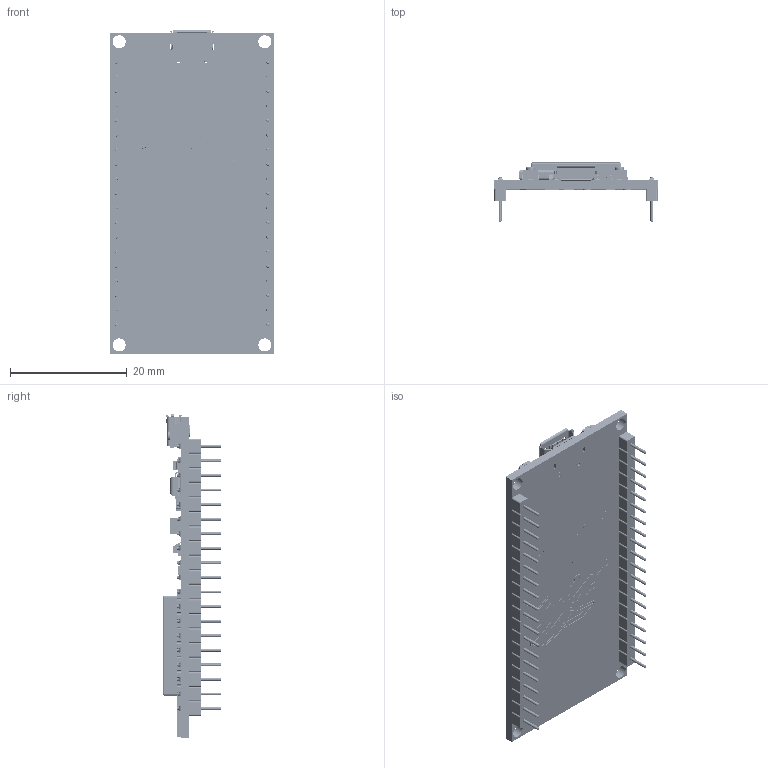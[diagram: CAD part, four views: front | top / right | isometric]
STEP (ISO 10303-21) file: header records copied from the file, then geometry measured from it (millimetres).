
FILE_DESCRIPTION(/* description */ (''),/* implementation_level */ '2;1');
FILE_NAME(/* name */ 'C:/Users/CDMX Electrónica/Desktop/PCB_ESP32-38Pines.step',/* time_stamp */ '2020-08-26T17:51:04-05:00',/* author */ (''),/* organization */ (''),/* preprocessor_version */ 'ST-DEVELOPER v18.1',/* originating_system */ 'Autodesk Translation Framework v9.3.0.1241',/* authorisation */ '');
FILE_SCHEMA (('AUTOMOTIVE_DESIGN { 1 0 10303 214 3 1 1 }'));
Products named in the file (16): PCB_ESP32-38Pines (v2~recovered); MicroUSB; esp32; AMS1173.3V; cp2102; Push_Bottom; Diodo_K24; Cap_Tam_106; Cap_Tam_106C; Transistor_smd; Led_red_0603; Res_102; Res_471; Res_123; Res_512; Cap_0603
Assembly tree (29 placements, depth 2):
  PCB_ESP32-38Pines (v2~recovered)
    MicroUSB
    esp32
    AMS1173.3V
    cp2102
    Push_Bottom  x2
    Diodo_K24
    Cap_Tam_106
    Cap_Tam_106C
    Transistor_smd  x2
    Led_red_0603
    Cap_0603  x7
    Res_102
    Res_123  x3
    Res_471  x4
    Res_512  x2
Bounding box: 28 x 10.12 x 55.48 mm (x, y, z)
Volume: 3809.9 mm3; surface area: 8471.4 mm2
Topology: 879 solids, 879 shells, 10258 faces, 25474 edges, 16960 vertices
Faces by surface type: plane 5400, bspline 3627, cylinder 1137, torus 86, sphere 8
Full cylindrical faces by diameter (mm): 0.447 x1, 0.5 x159, 0.6 x2, 0.9 x1, 1.054 x3, 1.5 x4, 2.25 x4
Entity records: 311124 total; most frequent: CARTESIAN_POINT 106853, ORIENTED_EDGE 46746, DIRECTION 30974, EDGE_CURVE 23373, VERTEX_POINT 15562, LINE 14612, VECTOR 14612, EDGE_LOOP 9805
